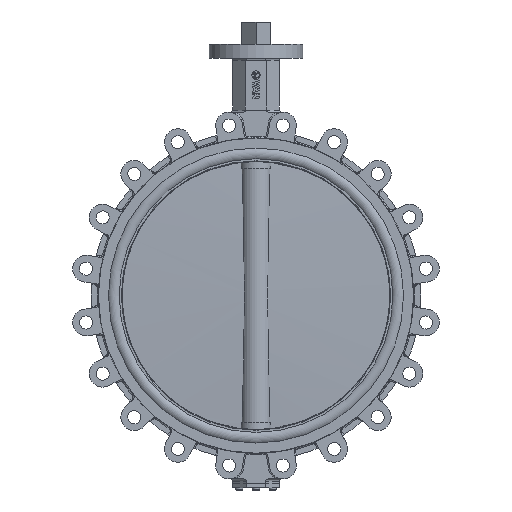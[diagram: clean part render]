
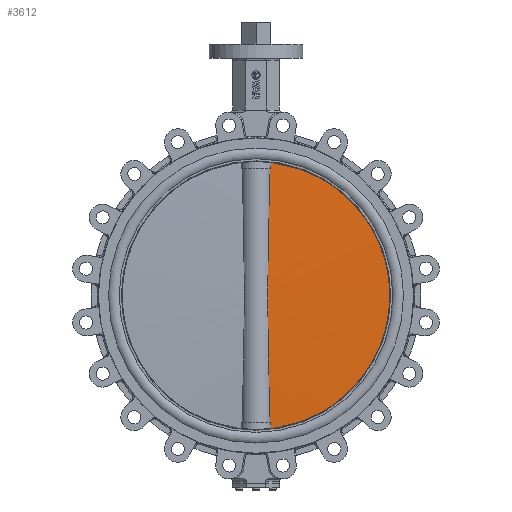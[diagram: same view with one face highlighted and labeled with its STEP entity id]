
A CAD part, left-side view. The second image highlights one B-rep face of the part: STEP entity #3612.
In plain terms, the highlighted spherical face has radius 6003.75 mm.
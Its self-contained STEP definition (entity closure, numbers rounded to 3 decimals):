
#3612=ADVANCED_FACE('',(#9939),#9941,.T.);
#9939=FACE_BOUND('',#9940,.T.);
#9940=EDGE_LOOP('',(#15444,#15445,#15446,#15447,#15448,#15449));
#9941=SPHERICAL_SURFACE('',#9942,6003.75);
#9942=AXIS2_PLACEMENT_3D('',#9943,#9944,#9945);
#9943=CARTESIAN_POINT('',(0.,-5980.75,0.));
#9944=DIRECTION('',(0.,-1.,0.));
#9945=DIRECTION('',(0.,0.,1.));
#15444=ORIENTED_EDGE('',*,*,#17832,.F.);
#15445=ORIENTED_EDGE('',*,*,#17836,.T.);
#15446=ORIENTED_EDGE('',*,*,#17819,.F.);
#15447=ORIENTED_EDGE('',*,*,#17850,.F.);
#15448=ORIENTED_EDGE('',*,*,#17851,.T.);
#15449=ORIENTED_EDGE('',*,*,#17852,.F.);
#17819=EDGE_CURVE('',#21566,#21568,#21569,.T.);
#17832=EDGE_CURVE('',#21592,#21594,#21595,.F.);
#17836=EDGE_CURVE('',#21592,#21568,#21600,.T.);
#17850=EDGE_CURVE('',#21619,#21566,#21621,.T.);
#17851=EDGE_CURVE('',#21619,#21622,#21623,.T.);
#17852=EDGE_CURVE('',#21594,#21622,#21624,.T.);
#21566=VERTEX_POINT('',#36345);
#21568=VERTEX_POINT('',#36350);
#21569=B_SPLINE_CURVE_WITH_KNOTS('',3,
(#36351,#36352,#36353,#36354,#36355,#36356,#36357,#36358,#36359,#36360,#36361,#36362,
#36363,#36364,#36365,#36366,#36367,#36368,#36369,#36370,#36371,#36372,#36373,#36374,
#36375,#36376,#36377),
.UNSPECIFIED.,.F.,.F.,
(4,1,1,1,1,1,1,1,1,1,1,1,1,1,1,1,1,1,1,1,1,1,1,1,4),
(0.,0.035,0.071,0.107,0.144,0.181,
0.218,0.256,0.295,0.333,0.373,
0.413,0.455,0.497,0.54,0.583,
0.628,0.673,0.718,0.764,0.811,
0.858,0.905,0.952,1.),
.UNSPECIFIED.);
#21592=VERTEX_POINT('',#36714);
#21594=VERTEX_POINT('',#36754);
#21595=B_SPLINE_CURVE_WITH_KNOTS('',3,
(#36755,#36756,#36757,#36758,#36759,#36760,#36761,#36762,#36763,#36764,#36765,#36766,
#36767,#36768,#36769,#36770,#36771,#36772,#36773,#36774,#36775,#36776,#36777,#36778,
#36779,#36780,#36781),
.UNSPECIFIED.,.F.,.F.,
(4,1,1,1,1,1,1,1,1,1,1,1,1,1,1,1,1,1,1,1,1,1,1,1,4),
(0.,0.035,0.071,0.107,0.144,0.181,
0.218,0.256,0.295,0.333,0.373,
0.413,0.455,0.497,0.54,0.583,
0.628,0.673,0.718,0.764,0.811,
0.858,0.905,0.952,1.),
.UNSPECIFIED.);
#21600=CIRCLE('',#36818,300.);
#21619=VERTEX_POINT('',#36920);
#21621=CIRCLE('',#36925,5997.041);
#21622=VERTEX_POINT('',#36929);
#21623=B_SPLINE_CURVE_WITH_KNOTS('',3,
(#36930,#36931,#36932,#36933,#36934,#36935,#36936,#36937,#36938,#36939,#36940,#36941,
#36942,#36943,#36944,#36945),
.UNSPECIFIED.,.F.,.F.,
(4,1,1,1,1,1,1,1,1,1,1,1,1,4),
(0.,0.048,0.112,0.189,0.28,0.368,
0.459,0.5,0.553,0.652,0.744,
0.831,0.915,1.),
.UNSPECIFIED.);
#21624=CIRCLE('',#36946,5997.041);
#36345=CARTESIAN_POINT('',(-32.791,16.201,283.75));
#36350=CARTESIAN_POINT('',(-33.128,15.5,298.165));
#36351=CARTESIAN_POINT('',(-32.791,16.201,283.75));
#36352=CARTESIAN_POINT('',(-32.795,16.193,283.92));
#36353=CARTESIAN_POINT('',(-32.803,16.177,284.263));
#36354=CARTESIAN_POINT('',(-32.815,16.152,284.778));
#36355=CARTESIAN_POINT('',(-32.827,16.128,285.299));
#36356=CARTESIAN_POINT('',(-32.84,16.103,285.824));
#36357=CARTESIAN_POINT('',(-32.852,16.077,286.356));
#36358=CARTESIAN_POINT('',(-32.865,16.051,286.895));
#36359=CARTESIAN_POINT('',(-32.878,16.025,287.443));
#36360=CARTESIAN_POINT('',(-32.891,15.998,287.997));
#36361=CARTESIAN_POINT('',(-32.904,15.971,288.56));
#36362=CARTESIAN_POINT('',(-32.917,15.944,289.131));
#36363=CARTESIAN_POINT('',(-32.931,15.915,289.714));
#36364=CARTESIAN_POINT('',(-32.945,15.887,290.308));
#36365=CARTESIAN_POINT('',(-32.959,15.857,290.915));
#36366=CARTESIAN_POINT('',(-32.973,15.827,291.533));
#36367=CARTESIAN_POINT('',(-32.988,15.796,292.164));
#36368=CARTESIAN_POINT('',(-33.003,15.765,292.803));
#36369=CARTESIAN_POINT('',(-33.018,15.733,293.451));
#36370=CARTESIAN_POINT('',(-33.033,15.701,294.106));
#36371=CARTESIAN_POINT('',(-33.049,15.668,294.769));
#36372=CARTESIAN_POINT('',(-33.065,15.635,295.438));
#36373=CARTESIAN_POINT('',(-33.08,15.602,296.114));
#36374=CARTESIAN_POINT('',(-33.096,15.568,296.794));
#36375=CARTESIAN_POINT('',(-33.112,15.534,297.478));
#36376=CARTESIAN_POINT('',(-33.123,15.511,297.936));
#36377=CARTESIAN_POINT('',(-33.128,15.5,298.165));
#36714=CARTESIAN_POINT('',(-33.128,15.5,-298.165));
#36754=CARTESIAN_POINT('',(-32.791,16.201,-283.75));
#36755=CARTESIAN_POINT('',(-32.791,16.201,-283.75));
#36756=CARTESIAN_POINT('',(-32.795,16.193,-283.92));
#36757=CARTESIAN_POINT('',(-32.803,16.177,-284.263));
#36758=CARTESIAN_POINT('',(-32.815,16.152,-284.778));
#36759=CARTESIAN_POINT('',(-32.827,16.128,-285.299));
#36760=CARTESIAN_POINT('',(-32.84,16.103,-285.824));
#36761=CARTESIAN_POINT('',(-32.852,16.077,-286.356));
#36762=CARTESIAN_POINT('',(-32.865,16.051,-286.895));
#36763=CARTESIAN_POINT('',(-32.878,16.025,-287.443));
#36764=CARTESIAN_POINT('',(-32.891,15.998,-287.997));
#36765=CARTESIAN_POINT('',(-32.904,15.971,-288.56));
#36766=CARTESIAN_POINT('',(-32.917,15.944,-289.131));
#36767=CARTESIAN_POINT('',(-32.931,15.915,-289.714));
#36768=CARTESIAN_POINT('',(-32.945,15.887,-290.308));
#36769=CARTESIAN_POINT('',(-32.959,15.857,-290.915));
#36770=CARTESIAN_POINT('',(-32.973,15.827,-291.533));
#36771=CARTESIAN_POINT('',(-32.988,15.796,-292.164));
#36772=CARTESIAN_POINT('',(-33.003,15.765,-292.803));
#36773=CARTESIAN_POINT('',(-33.018,15.733,-293.451));
#36774=CARTESIAN_POINT('',(-33.033,15.701,-294.106));
#36775=CARTESIAN_POINT('',(-33.049,15.668,-294.769));
#36776=CARTESIAN_POINT('',(-33.065,15.635,-295.438));
#36777=CARTESIAN_POINT('',(-33.08,15.602,-296.114));
#36778=CARTESIAN_POINT('',(-33.096,15.568,-296.794));
#36779=CARTESIAN_POINT('',(-33.112,15.534,-297.478));
#36780=CARTESIAN_POINT('',(-33.123,15.511,-297.936));
#36781=CARTESIAN_POINT('',(-33.128,15.5,-298.165));
#36818=AXIS2_PLACEMENT_3D('',#36819,#36820,#36821);
#36819=CARTESIAN_POINT('',(0.,15.5,0.));
#36820=DIRECTION('',(0.,1.,0.));
#36821=DIRECTION('',(-0.11,0.,-0.994));
#36920=CARTESIAN_POINT('',(-31.02,16.211,283.75));
#36925=AXIS2_PLACEMENT_3D('',#36926,#36927,#36928);
#36926=CARTESIAN_POINT('',(0.,-5980.75,283.75));
#36927=DIRECTION('',(0.,0.,1.));
#36928=DIRECTION('',(-0.005,1.,0.));
#36929=CARTESIAN_POINT('',(-31.02,16.211,-283.75));
#36930=CARTESIAN_POINT('',(-31.02,16.211,283.75));
#36931=CARTESIAN_POINT('',(-30.794,16.642,274.65));
#36932=CARTESIAN_POINT('',(-30.27,17.595,253.563));
#36933=CARTESIAN_POINT('',(-29.397,19.023,217.744));
#36934=CARTESIAN_POINT('',(-28.401,20.479,173.838));
#36935=CARTESIAN_POINT('',(-27.471,21.701,125.313));
#36936=CARTESIAN_POINT('',(-26.77,22.551,74.35));
#36937=CARTESIAN_POINT('',(-26.475,22.893,32.77));
#36938=CARTESIAN_POINT('',(-26.415,22.962,-2.307));
#36939=CARTESIAN_POINT('',(-26.496,22.869,-38.904));
#36940=CARTESIAN_POINT('',(-26.884,22.418,-85.123));
#36941=CARTESIAN_POINT('',(-27.686,21.429,-137.68));
#36942=CARTESIAN_POINT('',(-28.692,20.073,-187.324));
#36943=CARTESIAN_POINT('',(-29.824,18.362,-235.694));
#36944=CARTESIAN_POINT('',(-30.619,16.977,-267.607));
#36945=CARTESIAN_POINT('',(-31.02,16.211,-283.75));
#36946=AXIS2_PLACEMENT_3D('',#36947,#36948,#36949);
#36947=CARTESIAN_POINT('',(0.,-5980.75,-283.75));
#36948=DIRECTION('',(0.,0.,-1.));
#36949=DIRECTION('',(-0.005,1.,0.));
